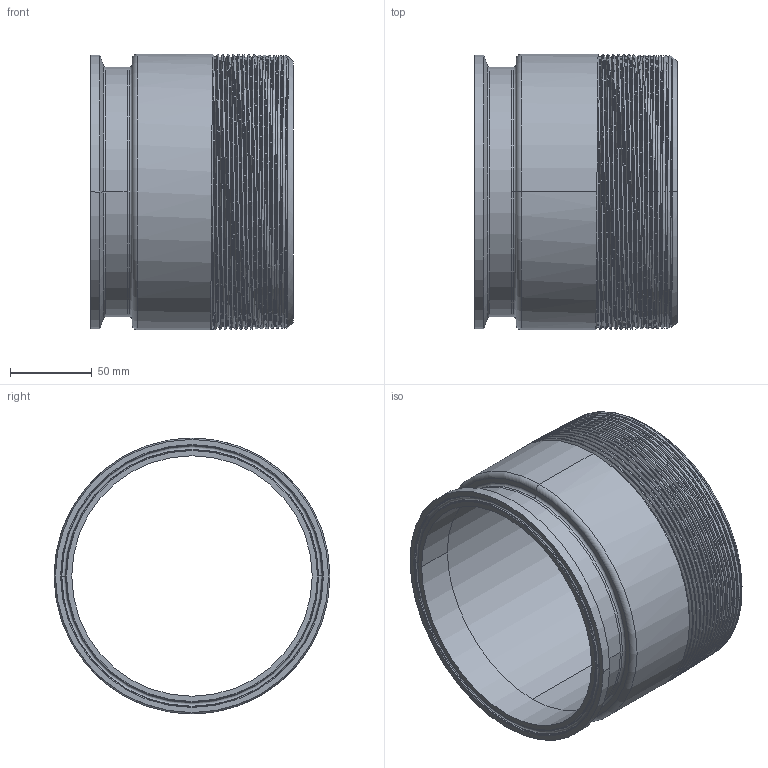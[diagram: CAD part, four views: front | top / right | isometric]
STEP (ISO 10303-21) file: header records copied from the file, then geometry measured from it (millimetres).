
FILE_DESCRIPTION (( 'STEP AP214' ), '1' );
FILE_NAME ('EG21 6.0.STEP', '2025-09-02T15:30:58', ( '' ), ( '' ), 'SwSTEP 2.0', 'SolidWorks 2023', '' );
FILE_SCHEMA (( 'AUTOMOTIVE_DESIGN' ));
Length unit declared in the file: inch
Products named in the file (3): EG21 6.0; EG2CS 6.0 REV2; 19WB 6.0 REV1
Assembly tree (2 placements, depth 2):
  EG21 6.0
    19WB 6.0 REV1
    EG2CS 6.0 REV2
Bounding box: 123.83 x 168.28 x 168.28 mm (x, y, z)
Volume: 545452.1 mm3; surface area: 147929.3 mm2
Topology: 2 solids, 2 shells, 75 faces, 183 edges, 114 vertices
Faces by surface type: cone 34, cylinder 19, torus 12, plane 7, bspline 3
Entity records: 9472 total; most frequent: CARTESIAN_POINT 7721, ORIENTED_EDGE 366, DIRECTION 330, EDGE_CURVE 183, AXIS2_PLACEMENT_3D 137, VERTEX_POINT 114, EDGE_LOOP 81, ADVANCED_FACE 75
